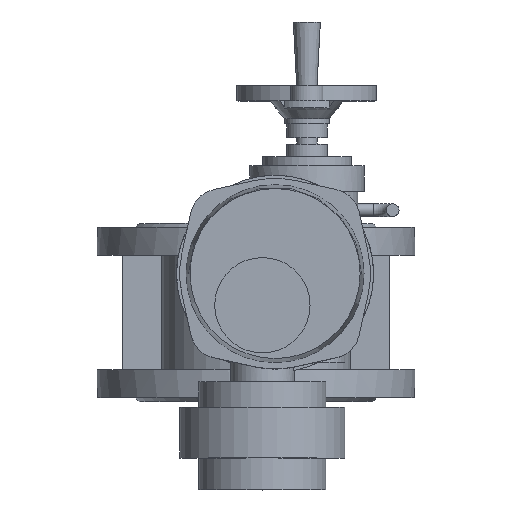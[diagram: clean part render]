
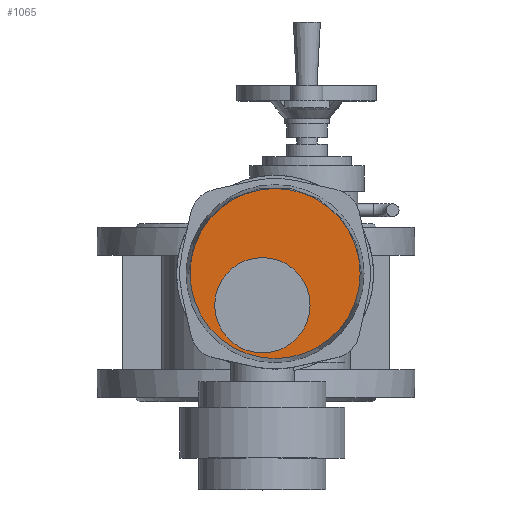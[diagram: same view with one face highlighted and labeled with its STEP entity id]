
A CAD part, top view. The second image highlights one B-rep face of the part: STEP entity #1065.
In plain terms, the highlighted planar face has unit normal (0, 0, 1).
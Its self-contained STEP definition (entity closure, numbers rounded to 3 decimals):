
#1065=ADVANCED_FACE('',(#2570,#2572),#2574,.T.);
#2570=FACE_BOUND('',#2571,.T.);
#2571=EDGE_LOOP('',(#3603));
#2572=FACE_BOUND('',#2573,.T.);
#2573=EDGE_LOOP('',(#3604));
#2574=PLANE('',#2575);
#2575=AXIS2_PLACEMENT_3D('',#2576,#2577,#2578);
#2576=CARTESIAN_POINT('',(15.,30.,409.));
#2577=DIRECTION('',(0.,0.,1.));
#2578=DIRECTION('',(-1.,0.,0.));
#3603=ORIENTED_EDGE('',*,*,#4094,.T.);
#3604=ORIENTED_EDGE('',*,*,#4147,.F.);
#4094=EDGE_CURVE('',#4643,#4643,#4644,.T.);
#4147=EDGE_CURVE('',#4737,#4737,#4738,.T.);
#4643=VERTEX_POINT('',#6648);
#4644=CIRCLE('',#6649,66.908);
#4737=VERTEX_POINT('',#7070);
#4738=CIRCLE('',#7071,37.5);
#6648=CARTESIAN_POINT('',(-51.908,30.,409.));
#6649=AXIS2_PLACEMENT_3D('',#6650,#6651,#6652);
#6650=CARTESIAN_POINT('',(15.,30.,409.));
#6651=DIRECTION('',(0.,0.,1.));
#6652=DIRECTION('',(-1.,0.,0.));
#7070=CARTESIAN_POINT('',(-32.5,5.,409.));
#7071=AXIS2_PLACEMENT_3D('',#7072,#7073,#7074);
#7072=CARTESIAN_POINT('',(5.,5.,409.));
#7073=DIRECTION('',(0.,0.,1.));
#7074=DIRECTION('',(-1.,0.,0.));
